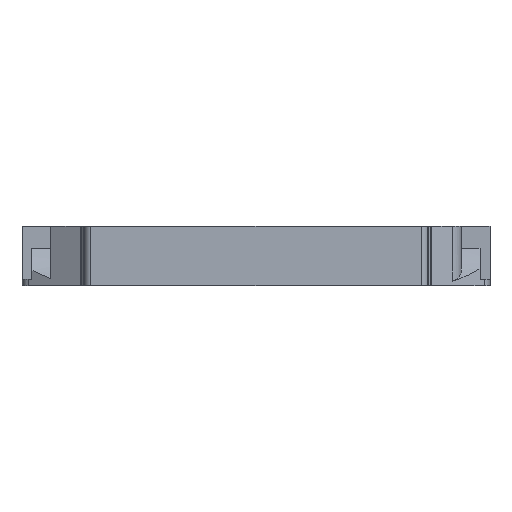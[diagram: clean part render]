
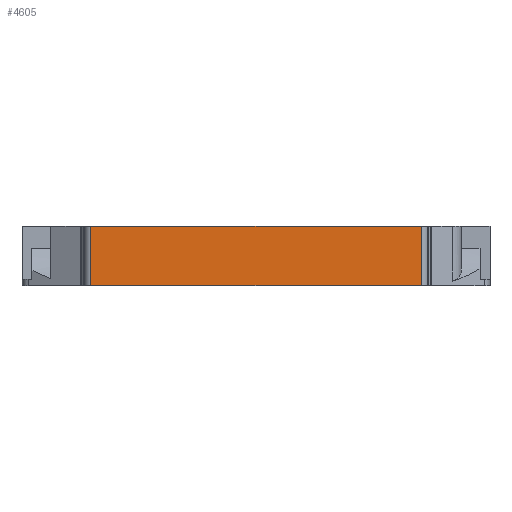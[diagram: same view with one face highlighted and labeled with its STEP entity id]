
A CAD part, top view. The second image highlights one B-rep face of the part: STEP entity #4605.
In plain terms, the highlighted planar face has unit normal (0, 0, 1).
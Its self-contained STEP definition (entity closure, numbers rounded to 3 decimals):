
#37 = CARTESIAN_POINT ( 'NONE',  ( 1., 9.5, 0. ) ) ;
#469 = CARTESIAN_POINT ( 'NONE',  ( 1., 9.5, 0. ) ) ;
#610 = ORIENTED_EDGE ( 'NONE', *, *, #2743, .T. ) ;
#666 = LINE ( 'NONE', #1886, #2330 ) ;
#1017 = EDGE_CURVE ( 'NONE', #1290, #5008, #2479, .T. ) ;
#1286 = EDGE_CURVE ( 'NONE', #1290, #6165, #7754, .T. ) ;
#1290 = VERTEX_POINT ( 'NONE', #469 ) ;
#1886 = CARTESIAN_POINT ( 'NONE',  ( 0., 0., 0. ) ) ;
#2039 = DIRECTION ( 'NONE',  ( 0., 1., 0. ) ) ;
#2185 = ORIENTED_EDGE ( 'NONE', *, *, #2609, .T. ) ;
#2311 = CARTESIAN_POINT ( 'NONE',  ( 0., 9.5, 0. ) ) ;
#2330 = VECTOR ( 'NONE', #3685, 1000. ) ;
#2417 = EDGE_LOOP ( 'NONE', ( #2185, #610, #4920, #3114 ) ) ;
#2479 = LINE ( 'NONE', #37, #3760 ) ;
#2609 = EDGE_CURVE ( 'NONE', #5008, #5122, #666, .T. ) ;
#2743 = EDGE_CURVE ( 'NONE', #5122, #6165, #7559, .T. ) ;
#2868 = DIRECTION ( 'NONE',  ( 0., 0., -1. ) ) ;
#3114 = ORIENTED_EDGE ( 'NONE', *, *, #1017, .T. ) ;
#3685 = DIRECTION ( 'NONE',  ( 1., 0., 0. ) ) ;
#3760 = VECTOR ( 'NONE', #6775, 1000. ) ;
#4079 = FACE_OUTER_BOUND ( 'NONE', #2417, .T. ) ;
#4605 = ADVANCED_FACE ( 'NONE', ( #4079 ), #6491, .F. ) ;
#4893 = CARTESIAN_POINT ( 'NONE',  ( 54., 0., 0. ) ) ;
#4920 = ORIENTED_EDGE ( 'NONE', *, *, #1286, .F. ) ;
#5008 = VERTEX_POINT ( 'NONE', #6402 ) ;
#5122 = VERTEX_POINT ( 'NONE', #4893 ) ;
#5428 = AXIS2_PLACEMENT_3D ( 'NONE', #7673, #2868, #7080 ) ;
#6021 = VECTOR ( 'NONE', #2039, 1000. ) ;
#6152 = VECTOR ( 'NONE', #6460, 1000. ) ;
#6165 = VERTEX_POINT ( 'NONE', #7706 ) ;
#6216 = CARTESIAN_POINT ( 'NONE',  ( 54., 9.5, 0. ) ) ;
#6402 = CARTESIAN_POINT ( 'NONE',  ( 1., 0., 0. ) ) ;
#6460 = DIRECTION ( 'NONE',  ( 1., 0., 0. ) ) ;
#6491 = PLANE ( 'NONE',  #5428 ) ;
#6775 = DIRECTION ( 'NONE',  ( 0., -1., 0. ) ) ;
#7080 = DIRECTION ( 'NONE',  ( -1., 0., 0. ) ) ;
#7559 = LINE ( 'NONE', #6216, #6021 ) ;
#7673 = CARTESIAN_POINT ( 'NONE',  ( 0., 9.5, 0. ) ) ;
#7706 = CARTESIAN_POINT ( 'NONE',  ( 54., 9.5, 0. ) ) ;
#7754 = LINE ( 'NONE', #2311, #6152 ) ;
